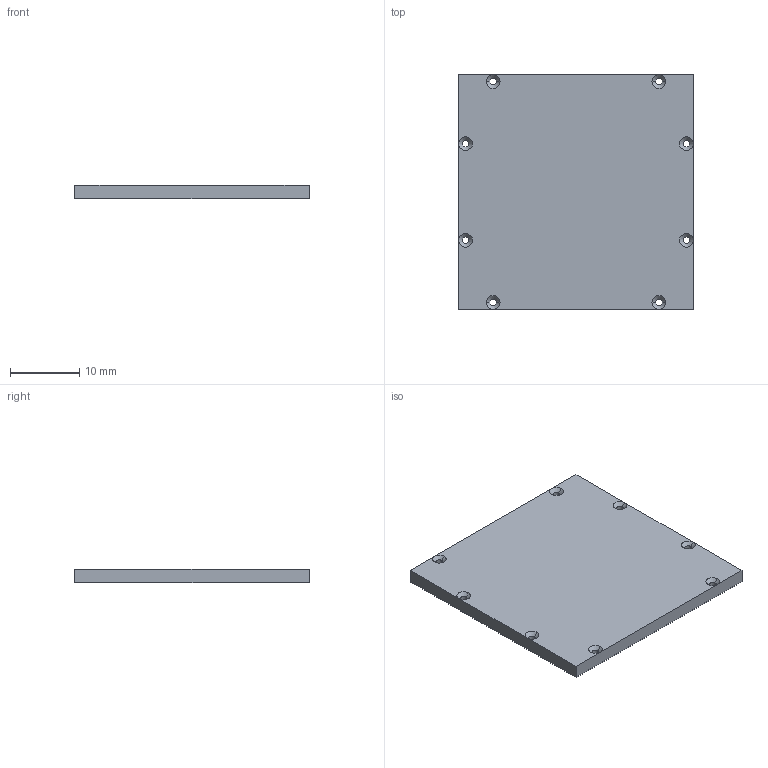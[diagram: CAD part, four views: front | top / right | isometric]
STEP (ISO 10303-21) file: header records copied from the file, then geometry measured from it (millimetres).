
FILE_DESCRIPTION (( 'STEP AP214' ), '1' );
FILE_NAME ('G8.STEP', '2016-02-28T09:01:16', ( '' ), ( '' ), 'SwSTEP 2.0', 'SolidWorks 2012', '' );
FILE_SCHEMA (( 'AUTOMOTIVE_DESIGN' ));
Length unit declared in the file: millimetre
Products named in the file (1): G8
Bounding box: 34 x 34 x 2 mm (x, y, z)
Volume: 2293.6 mm3; surface area: 2627.3 mm2
Topology: 1 solids, 1 shells, 85 faces, 233 edges, 146 vertices
Faces by surface type: bspline 29, plane 24, cone 16, cylinder 16
Entity records: 4123 total; most frequent: CARTESIAN_POINT 2070, ORIENTED_EDGE 466, DIRECTION 341, EDGE_CURVE 233, VERTEX_POINT 146, LINE 123, VECTOR 123, AXIS2_PLACEMENT_3D 109
